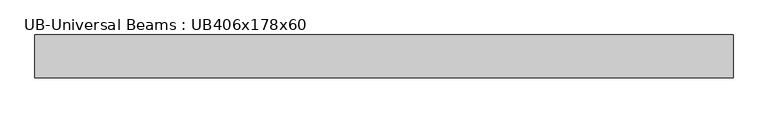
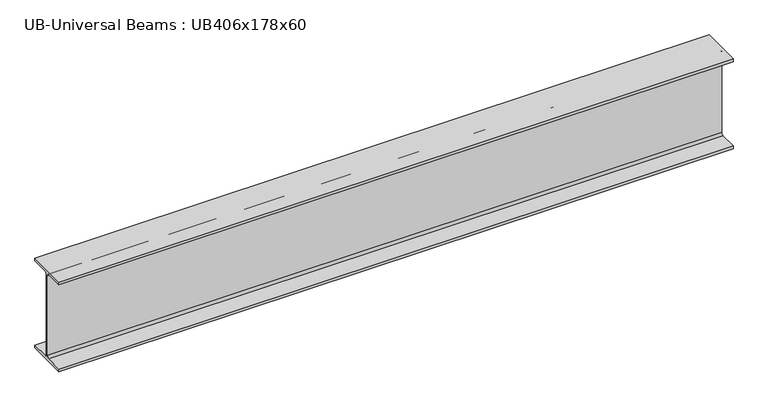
"""IFC4 building model written with IfcOpenShell, lengths in millimetres: beam geometry, UB-Universal Beams : UB406x178x60."""

from ifc_helpers import new_model, si_unit, point, frame, frame_2d, origin, place, context, project, spatial, polyline, circle_curve, trimmed, segment, composite_curve, outline, extrude, source, transform, mapped, element, save


def ub_universal_beams_ub406x178x60_8dec86ff(model_context):
    return source(origin(), model_context, "Body", "SweptSolid", [
        extrude(outline(composite_curve([segment(polyline([(88.95, -190.4), (88.95, -203.2), (-88.95, -203.2), (-88.95, -190.4), (-14.15, -190.4)]), True, "CONTINUOUS"), segment(trimmed(circle_curve(frame_2d((-14.15, -180.2)), 10.2), [point((-14.15, -190.4))], [point((-3.95, -180.2))], True, "CARTESIAN"), True, "CONTINUOUS"), segment(polyline([(-3.95, -180.2), (-3.95, 180.2)]), True, "CONTINUOUS"), segment(trimmed(circle_curve(frame_2d((-14.15, 180.2)), 10.2), [point((-3.95, 180.2))], [point((-14.15, 190.4))], True, "CARTESIAN"), True, "CONTINUOUS"), segment(polyline([(-14.15, 190.4), (-88.95, 190.4), (-88.95, 203.2), (88.95, 203.2), (88.95, 190.4), (14.15, 190.4)]), True, "CONTINUOUS"), segment(trimmed(circle_curve(frame_2d((14.15, 180.2)), 10.2), [point((14.15, 190.4))], [point((3.95, 180.2))], True, "CARTESIAN"), True, "CONTINUOUS"), segment(polyline([(3.95, 180.2), (3.95, -180.2)]), True, "CONTINUOUS"), segment(trimmed(circle_curve(frame_2d((14.15, -180.2)), 10.2), [point((3.95, -180.2))], [point((14.15, -190.4))], True, "CARTESIAN"), True, "CONTINUOUS"), segment(polyline([(14.15, -190.4), (88.95, -190.4)]), True, "CONTINUOUS")], self_intersect=False)), frame((-1385.1, 0.0, 0.0), z_axis=(1.0, 0.0, 0.0), x_axis=(0.0, 1.0, 0.0)), (0.0, 0.0, 1.0), 2885.1),
    ])


if __name__ == "__main__":
    model = new_model("IFC4")
    model_context = context("Model", 3, world=origin())
    ifc_project = project(units=[si_unit("LENGTHUNIT", "METRE", prefix="MILLI")], contexts=[model_context])
    site = spatial("IfcSite", under=ifc_project)
    building = spatial("IfcBuilding", under=site)
    placement = place(None, origin())
    ub_universal_beams_ub406x178x60_shape = ub_universal_beams_ub406x178x60_8dec86ff(model_context)
    element("IfcBeam", 1, ObjectType="UB-Universal Beams : UB406x178x60", at=placement, inside=building, context=model_context, shape_type="MappedRepresentation", body=[
        mapped(ub_universal_beams_ub406x178x60_shape, transform((0.0, 0.0, 0.0), x_axis=(1.0, 0.0, 0.0), y_axis=(0.0, 1.0, 0.0), z_axis=(0.0, 0.0, 1.0))),
    ])
    save(model, "model.ifc")
